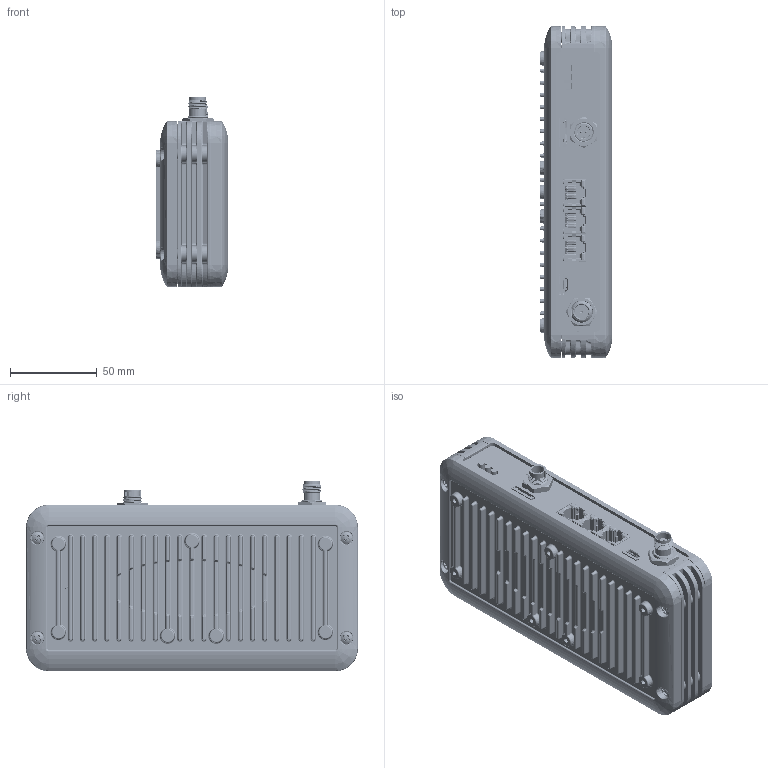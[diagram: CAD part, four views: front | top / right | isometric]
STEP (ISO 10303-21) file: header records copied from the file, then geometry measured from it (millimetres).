
FILE_DESCRIPTION (( 'STEP AP214' ), '1' );
FILE_NAME ('Z9-PE.STEP', '2018-09-30T15:45:11', ( '' ), ( '' ), 'SwSTEP 2.0', 'SolidWorks 2016', '' );
FILE_SCHEMA (( 'AUTOMOTIVE_DESIGN' ));
Length unit declared in the file: inch
Products named in the file (172): STPROG_STPROG; EPC0091XA_Single PCB; CTP0003TH; EOP7510LP_3_rev A; 0402_EFI1005FB; MTH093X180_MTH093X180; 0402_ECA0120FC; XFL4020_EIN0472LS; FA238_EXT0024CS; FA238_EXT2500SY; AB07_EXT3276SZ; AII0069AA_Hand-add View 1; CTP0002TH; EOP0062RG LED; TSSOP16N_EIC0074SM; XROUNDTOP_LARGE_XROUNDTOP1_6; 0603_ECA0106SX; SOT23_EXS2301PS; XTAL_ABM3C_EXT1474AA; SOT23_EXS6102PS; ASC0001ZL; CTP0001TH; EPC0069IF_Thor-B; MTH025BA_TP25; EIN0472PS_EIN0102PT; 0402_ECA0105FX; 0805_ERE0105FT; QFN14HS_EIC6302PS; SOT23_EXS6102NS; PanelJack_DCpower; Enclosure; TP_SMT_TP_SMT; 0805IND_EFI0805FB; 0402_ECA0104FX; BC2032F1_EHB2032LC; SOTFL50P160X606N_EIC1020SS; SC753_EXS3904NV; Conxall 1728x-xxG-xxx; HSO0115NY_94639A199; Z9-PE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
Assembly tree (558 placements, depth 6):
  STPROG_STPROG
  0402_EFI1005FB
  MTH093X180_MTH093X180
  FA238_EXT2500SY
  TSSOP16N_EIC0074SM
Bounding box: 41.85 x 190.93 x 109.49 mm (x, y, z)
Volume: 278409.3 mm3; surface area: 214148.8 mm2
Topology: 547 solids, 559 shells, 16750 faces, 42963 edges, 27721 vertices
Faces by surface type: plane 9512, cylinder 4482, bspline 1669, cone 631, torus 290, sphere 166
Entity records: 371120 total; most frequent: CARTESIAN_POINT 138280, ORIENTED_EDGE 46362, DIRECTION 40354, EDGE_CURVE 23183, VERTEX_POINT 14923, VECTOR 13712, LINE 13712, AXIS2_PLACEMENT_3D 13321
